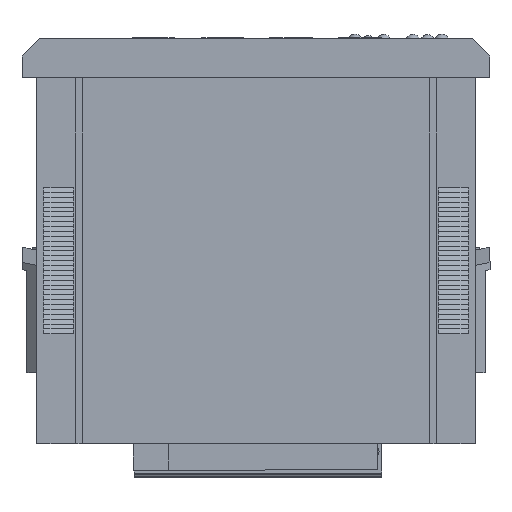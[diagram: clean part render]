
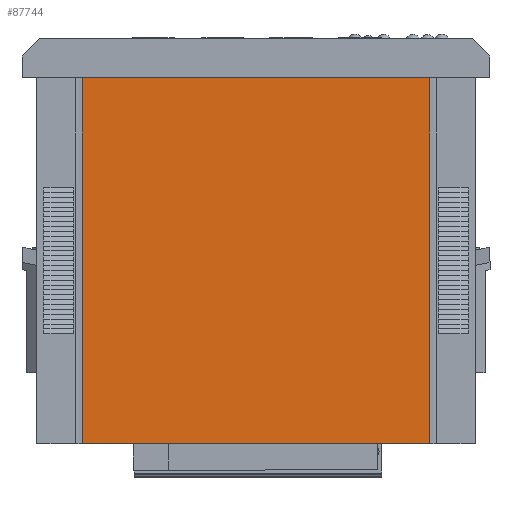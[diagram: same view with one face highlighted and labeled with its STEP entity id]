
A CAD part, front view. The second image highlights one B-rep face of the part: STEP entity #87744.
In plain terms, the highlighted planar face has unit normal (0, -1, 0).
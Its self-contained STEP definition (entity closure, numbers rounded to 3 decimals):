
#8810=FACE_OUTER_BOUND('',#13988,.T.);
#13988=EDGE_LOOP('',(#61983,#61984,#61985,#61986));
#20579=LINE('',#128963,#30488);
#20595=LINE('',#128995,#30504);
#20596=LINE('',#128997,#30505);
#20597=LINE('',#128998,#30506);
#30488=VECTOR('',#104157,10.);
#30504=VECTOR('',#104183,10.);
#30505=VECTOR('',#104184,10.);
#30506=VECTOR('',#104185,10.);
#39438=VERTEX_POINT('',#128961);
#39439=VERTEX_POINT('',#128962);
#39450=VERTEX_POINT('',#128994);
#39451=VERTEX_POINT('',#128996);
#47972=EDGE_CURVE('',#39438,#39439,#20579,.T.);
#47988=EDGE_CURVE('',#39450,#39439,#20595,.T.);
#47989=EDGE_CURVE('',#39450,#39451,#20596,.T.);
#47990=EDGE_CURVE('',#39438,#39451,#20597,.T.);
#61983=ORIENTED_EDGE('',*,*,#47972,.T.);
#61984=ORIENTED_EDGE('',*,*,#47988,.F.);
#61985=ORIENTED_EDGE('',*,*,#47989,.T.);
#61986=ORIENTED_EDGE('',*,*,#47990,.F.);
#83522=PLANE('',#93519);
#87744=ADVANCED_FACE('',(#8810),#83522,.T.);
#93519=AXIS2_PLACEMENT_3D('',#128993,#104181,#104182);
#104157=DIRECTION('',(0.,0.,-1.));
#104181=DIRECTION('center_axis',(0.,-1.,0.));
#104182=DIRECTION('ref_axis',(-1.,0.,0.));
#104183=DIRECTION('',(-1.,0.,0.));
#104184=DIRECTION('',(0.,0.,1.));
#104185=DIRECTION('',(1.,0.,0.));
#128961=CARTESIAN_POINT('',(12.4,3.,0.));
#128962=CARTESIAN_POINT('',(12.4,3.,-75.));
#128963=CARTESIAN_POINT('',(12.4,3.,0.));
#128993=CARTESIAN_POINT('Origin',(93.,3.,0.));
#128994=CARTESIAN_POINT('',(83.6,3.,-75.));
#128995=CARTESIAN_POINT('',(3.,3.,-75.));
#128996=CARTESIAN_POINT('',(83.6,3.,0.));
#128997=CARTESIAN_POINT('',(83.6,3.,0.));
#128998=CARTESIAN_POINT('',(70.5,3.,0.));
